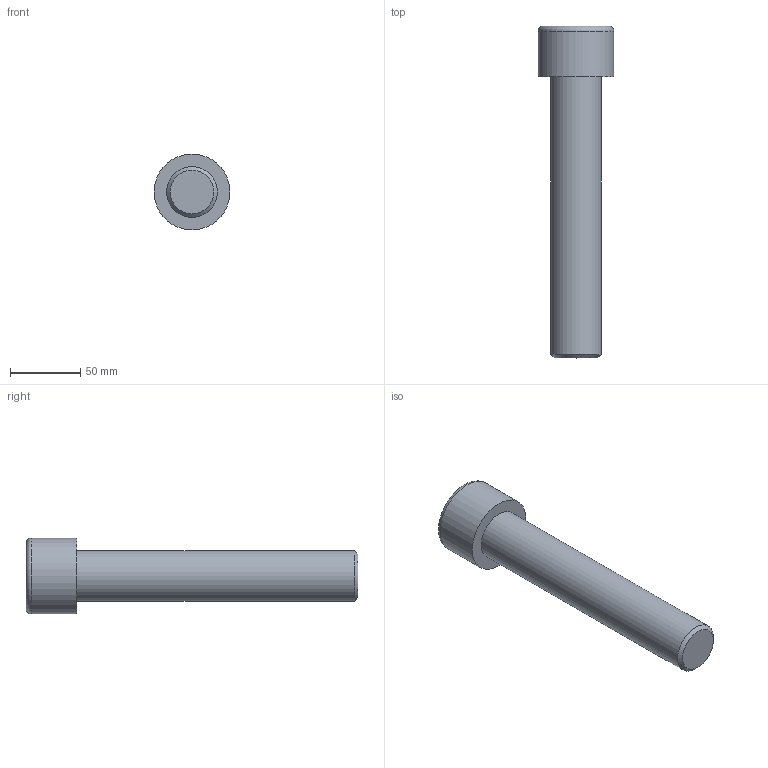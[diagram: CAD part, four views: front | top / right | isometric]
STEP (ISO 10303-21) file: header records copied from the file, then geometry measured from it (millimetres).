
FILE_DESCRIPTION(/* description */ (''),/* implementation_level */ '2;1');
FILE_NAME(/* name */ 'C:\Users\D\Documents\Inventor\各種小物\JIS\JIS B 1176 六角穴付きボルト\M36x200.stp',/* time_stamp */ '2022-05-09T19:03:57+09:00',/* author */ ('D'),/* organization */ (''),/* preprocessor_version */ 'ST-DEVELOPER v18',/* originating_system */ 'Autodesk Inventor 2020',/* authorisation */ '');
FILE_SCHEMA (('AUTOMOTIVE_DESIGN { 1 0 10303 214 3 1 1 }'));
Length unit declared in the file: millimetre
Products named in the file (1): M1.6x2.5
Bounding box: 54 x 236 x 54 mm (x, y, z)
Volume: 271018.6 mm3; surface area: 34818 mm2
Topology: 1 solids, 1 shells, 14 faces, 33 edges, 22 vertices
Faces by surface type: plane 9, cone 2, cylinder 2, torus 1
Full cylindrical faces by diameter (mm): 36 x1, 54 x1
Entity records: 435 total; most frequent: CARTESIAN_POINT 83, ORIENTED_EDGE 64, DIRECTION 64, EDGE_CURVE 32, AXIS2_PLACEMENT_3D 24, VERTEX_POINT 22, EDGE_LOOP 16, LINE 16
